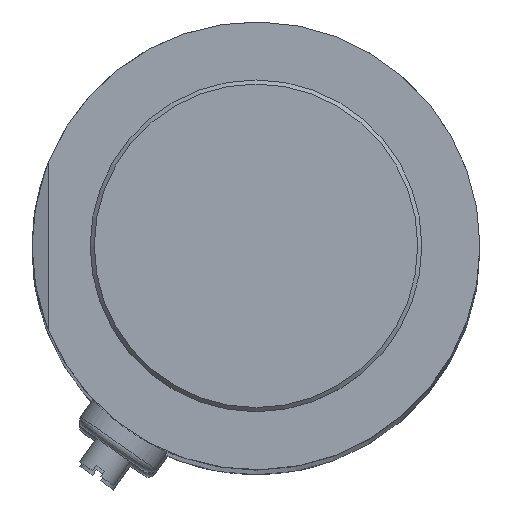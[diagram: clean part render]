
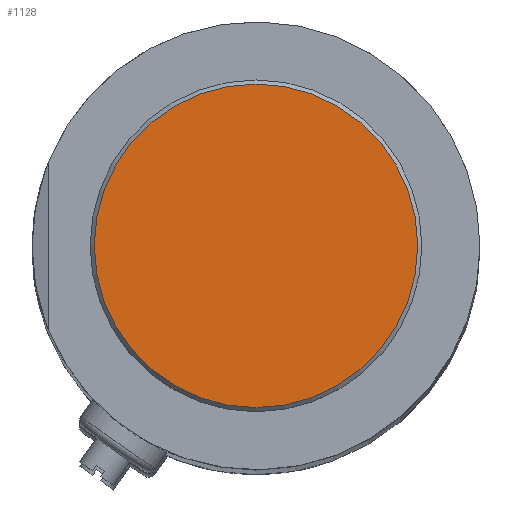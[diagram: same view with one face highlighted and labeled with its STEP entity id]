
A CAD part, top view. The second image highlights one B-rep face of the part: STEP entity #1128.
In plain terms, the highlighted planar face has unit normal (0, 0, 1) as drawn and (-1, 0, 0) by its records, which use the part's own axes.
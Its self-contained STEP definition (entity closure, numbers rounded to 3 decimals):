
#204=PLANE('',#1293);
#340=FACE_OUTER_BOUND('',#476,.T.);
#476=EDGE_LOOP('',(#1023));
#542=CIRCLE('',#1292,19.5);
#643=VERTEX_POINT('',#2158);
#770=EDGE_CURVE('',#643,#643,#542,.T.);
#1023=ORIENTED_EDGE('',*,*,#770,.T.);
#1128=ADVANCED_FACE('',(#340),#204,.T.);
#1292=AXIS2_PLACEMENT_3D('',#2159,#1642,#1643);
#1293=AXIS2_PLACEMENT_3D('',#2160,#1644,#1645);
#1642=DIRECTION('center_axis',(-1.,0.,0.));
#1643=DIRECTION('ref_axis',(0.,0.,1.));
#1644=DIRECTION('center_axis',(-1.,0.,0.));
#1645=DIRECTION('ref_axis',(0.,0.,1.));
#2158=CARTESIAN_POINT('',(-23.,0.,19.5));
#2159=CARTESIAN_POINT('Origin',(-23.,0.,0.));
#2160=CARTESIAN_POINT('Origin',(-23.,0.,0.));
